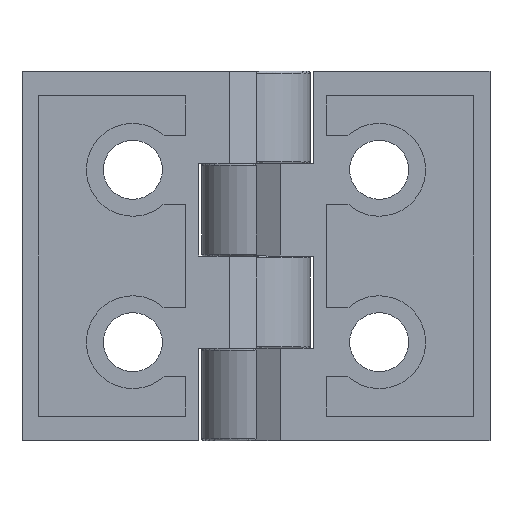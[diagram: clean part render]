
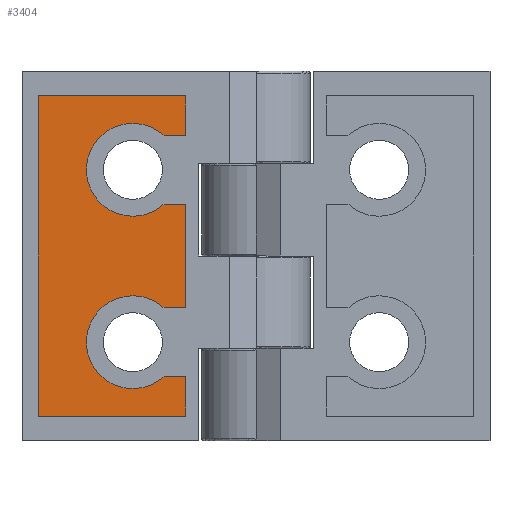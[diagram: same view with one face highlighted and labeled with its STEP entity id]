
A CAD part, front view. The second image highlights one B-rep face of the part: STEP entity #3404.
In plain terms, the highlighted planar face has unit normal (0, -1, 0).
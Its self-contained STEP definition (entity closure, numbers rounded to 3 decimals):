
#16 = EDGE_CURVE ( 'NONE', #3590, #86, #328, .T. ) ;
#74 = EDGE_CURVE ( 'NONE', #3717, #3261, #637, .T. ) ;
#86 = VERTEX_POINT ( 'NONE', #3617 ) ;
#155 = VECTOR ( 'NONE', #1713, 1000. ) ;
#166 = DIRECTION ( 'NONE',  ( 0., 0., 1. ) ) ;
#189 = CARTESIAN_POINT ( 'NONE',  ( 1.668, -1.201, 19.206 ) ) ;
#217 = CARTESIAN_POINT ( 'NONE',  ( -0.862, -1.201, 22. ) ) ;
#230 = DIRECTION ( 'NONE',  ( -1., 0., 0. ) ) ;
#283 = CARTESIAN_POINT ( 'NONE',  ( -8.562, -1.201, 2. ) ) ;
#328 = LINE ( 'NONE', #3688, #3440 ) ;
#472 = AXIS2_PLACEMENT_3D ( 'NONE', #217, #3581, #3190 ) ;
#482 = DIRECTION ( 'NONE',  ( 0., 0., 1. ) ) ;
#516 = EDGE_CURVE ( 'NONE', #677, #1452, #3115, .T. ) ;
#534 = CARTESIAN_POINT ( 'NONE',  ( 3.438, -1.201, 19.206 ) ) ;
#561 = VECTOR ( 'NONE', #482, 1000. ) ;
#585 = ORIENTED_EDGE ( 'NONE', *, *, #850, .T. ) ;
#590 = CARTESIAN_POINT ( 'NONE',  ( 3.438, -1.201, 2. ) ) ;
#605 = DIRECTION ( 'NONE',  ( 0., 1., 0. ) ) ;
#637 = LINE ( 'NONE', #2155, #2256 ) ;
#651 = CIRCLE ( 'NONE', #1865, 3.77 ) ;
#674 = VECTOR ( 'NONE', #166, 1000. ) ;
#677 = VERTEX_POINT ( 'NONE', #1324 ) ;
#729 = VERTEX_POINT ( 'NONE', #3338 ) ;
#850 = EDGE_CURVE ( 'NONE', #1356, #2005, #3005, .T. ) ;
#864 = CARTESIAN_POINT ( 'NONE',  ( 3.438, -1.201, 5.206 ) ) ;
#924 = LINE ( 'NONE', #534, #674 ) ;
#987 = CARTESIAN_POINT ( 'NONE',  ( -8.562, -1.201, 28. ) ) ;
#994 = CARTESIAN_POINT ( 'NONE',  ( -0.862, -1.201, 8. ) ) ;
#1102 = DIRECTION ( 'NONE',  ( 1., 0., 0. ) ) ;
#1128 = CARTESIAN_POINT ( 'NONE',  ( 3.438, -1.201, 28. ) ) ;
#1199 = CIRCLE ( 'NONE', #472, 3.77 ) ;
#1254 = LINE ( 'NONE', #864, #561 ) ;
#1322 = VECTOR ( 'NONE', #1517, 1000. ) ;
#1324 = CARTESIAN_POINT ( 'NONE',  ( 1.668, -1.201, 10.794 ) ) ;
#1326 = VERTEX_POINT ( 'NONE', #1128 ) ;
#1356 = VERTEX_POINT ( 'NONE', #987 ) ;
#1403 = VECTOR ( 'NONE', #1633, 1000. ) ;
#1452 = VERTEX_POINT ( 'NONE', #3425 ) ;
#1511 = VECTOR ( 'NONE', #2290, 1000. ) ;
#1517 = DIRECTION ( 'NONE',  ( 1., 0., 0. ) ) ;
#1559 = DIRECTION ( 'NONE',  ( -1., 0., 0. ) ) ;
#1633 = DIRECTION ( 'NONE',  ( 0., 0., -1. ) ) ;
#1713 = DIRECTION ( 'NONE',  ( -1., 0., 0. ) ) ;
#1728 = ORIENTED_EDGE ( 'NONE', *, *, #3583, .T. ) ;
#1748 = ORIENTED_EDGE ( 'NONE', *, *, #3217, .T. ) ;
#1776 = DIRECTION ( 'NONE',  ( -1., 0., 0. ) ) ;
#1819 = CARTESIAN_POINT ( 'NONE',  ( 3.438, -1.201, 19.206 ) ) ;
#1865 = AXIS2_PLACEMENT_3D ( 'NONE', #994, #605, #230 ) ;
#1886 = CARTESIAN_POINT ( 'NONE',  ( 3.438, -1.201, 2. ) ) ;
#1914 = AXIS2_PLACEMENT_3D ( 'NONE', #2308, #1929, #1559 ) ;
#1919 = EDGE_CURVE ( 'NONE', #86, #1326, #2951, .T. ) ;
#1929 = DIRECTION ( 'NONE',  ( 0., 1., 0. ) ) ;
#2005 = VERTEX_POINT ( 'NONE', #283 ) ;
#2016 = ORIENTED_EDGE ( 'NONE', *, *, #516, .T. ) ;
#2017 = EDGE_CURVE ( 'NONE', #1326, #1356, #2482, .T. ) ;
#2037 = EDGE_CURVE ( 'NONE', #2556, #729, #1254, .T. ) ;
#2060 = VECTOR ( 'NONE', #2162, 1000. ) ;
#2099 = CARTESIAN_POINT ( 'NONE',  ( -8.562, -1.201, 28. ) ) ;
#2155 = CARTESIAN_POINT ( 'NONE',  ( 1.668, -1.201, 19.206 ) ) ;
#2162 = DIRECTION ( 'NONE',  ( 0., 0., 1. ) ) ;
#2232 = CARTESIAN_POINT ( 'NONE',  ( 1.668, -1.201, 10.794 ) ) ;
#2256 = VECTOR ( 'NONE', #1776, 1000. ) ;
#2264 = LINE ( 'NONE', #1886, #1322 ) ;
#2290 = DIRECTION ( 'NONE',  ( -1., 0., 0. ) ) ;
#2308 = CARTESIAN_POINT ( 'NONE',  ( -0.862, -1.201, 8. ) ) ;
#2482 = LINE ( 'NONE', #2099, #155 ) ;
#2506 = ORIENTED_EDGE ( 'NONE', *, *, #3469, .T. ) ;
#2550 = CARTESIAN_POINT ( 'NONE',  ( 3.438, -1.201, 28. ) ) ;
#2556 = VERTEX_POINT ( 'NONE', #590 ) ;
#2558 = EDGE_CURVE ( 'NONE', #3261, #3590, #1199, .T. ) ;
#2591 = ORIENTED_EDGE ( 'NONE', *, *, #2558, .T. ) ;
#2603 = CARTESIAN_POINT ( 'NONE',  ( -8.562, -1.201, 28. ) ) ;
#2617 = ORIENTED_EDGE ( 'NONE', *, *, #16, .T. ) ;
#2693 = CARTESIAN_POINT ( 'NONE',  ( 1.668, -1.201, 5.206 ) ) ;
#2710 = PLANE ( 'NONE',  #1914 ) ;
#2805 = VECTOR ( 'NONE', #1102, 1000. ) ;
#2851 = ORIENTED_EDGE ( 'NONE', *, *, #74, .T. ) ;
#2874 = EDGE_CURVE ( 'NONE', #729, #3447, #3080, .T. ) ;
#2881 = ORIENTED_EDGE ( 'NONE', *, *, #1919, .T. ) ;
#2951 = LINE ( 'NONE', #2550, #2060 ) ;
#3005 = LINE ( 'NONE', #2603, #1403 ) ;
#3080 = LINE ( 'NONE', #2693, #1511 ) ;
#3115 = LINE ( 'NONE', #2232, #2805 ) ;
#3137 = CARTESIAN_POINT ( 'NONE',  ( 1.668, -1.201, 24.794 ) ) ;
#3142 = EDGE_LOOP ( 'NONE', ( #585, #1748, #3252, #3358, #2506, #2016, #1728, #2851, #2591, #2617, #2881, #3572 ) ) ;
#3190 = DIRECTION ( 'NONE',  ( 1., 0., 0. ) ) ;
#3207 = FACE_OUTER_BOUND ( 'NONE', #3142, .T. ) ;
#3217 = EDGE_CURVE ( 'NONE', #2005, #2556, #2264, .T. ) ;
#3252 = ORIENTED_EDGE ( 'NONE', *, *, #2037, .T. ) ;
#3261 = VERTEX_POINT ( 'NONE', #189 ) ;
#3313 = DIRECTION ( 'NONE',  ( 1., 0., 0. ) ) ;
#3338 = CARTESIAN_POINT ( 'NONE',  ( 3.438, -1.201, 5.206 ) ) ;
#3358 = ORIENTED_EDGE ( 'NONE', *, *, #2874, .T. ) ;
#3404 = ADVANCED_FACE ( 'NONE', ( #3207 ), #2710, .F. ) ;
#3425 = CARTESIAN_POINT ( 'NONE',  ( 3.438, -1.201, 10.794 ) ) ;
#3440 = VECTOR ( 'NONE', #3313, 1000. ) ;
#3447 = VERTEX_POINT ( 'NONE', #3679 ) ;
#3469 = EDGE_CURVE ( 'NONE', #3447, #677, #651, .T. ) ;
#3572 = ORIENTED_EDGE ( 'NONE', *, *, #2017, .T. ) ;
#3581 = DIRECTION ( 'NONE',  ( 0., 1., 0. ) ) ;
#3583 = EDGE_CURVE ( 'NONE', #1452, #3717, #924, .T. ) ;
#3590 = VERTEX_POINT ( 'NONE', #3137 ) ;
#3617 = CARTESIAN_POINT ( 'NONE',  ( 3.438, -1.201, 24.794 ) ) ;
#3679 = CARTESIAN_POINT ( 'NONE',  ( 1.668, -1.201, 5.206 ) ) ;
#3688 = CARTESIAN_POINT ( 'NONE',  ( 1.668, -1.201, 24.794 ) ) ;
#3717 = VERTEX_POINT ( 'NONE', #1819 ) ;
